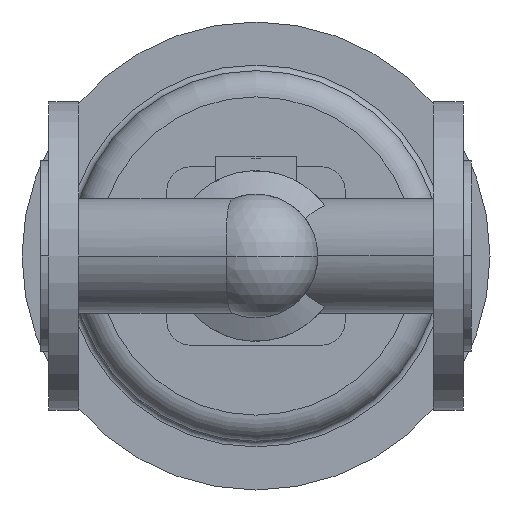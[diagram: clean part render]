
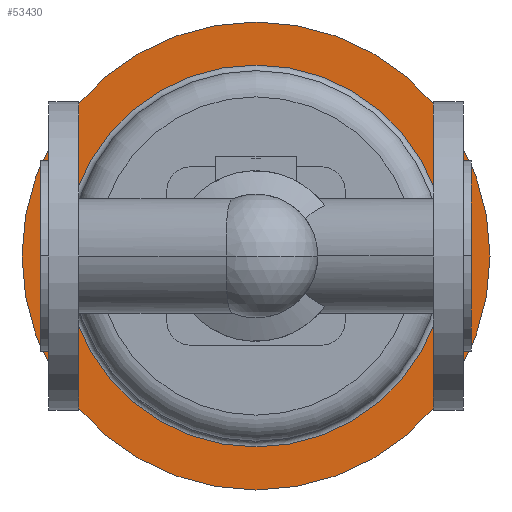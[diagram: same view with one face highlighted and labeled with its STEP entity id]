
A CAD part, front view. The second image highlights one B-rep face of the part: STEP entity #53430.
In plain terms, the highlighted planar face has unit normal (0, -1, 0).
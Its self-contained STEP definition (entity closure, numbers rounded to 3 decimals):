
#52940=CARTESIAN_POINT('',(217.,561.,0.));
#52950=VERTEX_POINT('',#52940);
#53040=CARTESIAN_POINT('',(13.,561.,0.));
#53050=VERTEX_POINT('',#53040);
#53080=CARTESIAN_POINT('',(115.,561.,0.));
#53090=DIRECTION('',(0.,1.,0.));
#53100=DIRECTION('',(1.,0.,0.));
#53110=AXIS2_PLACEMENT_3D('',#53080,#53090,#53100);
#53120=CIRCLE('',#53110,102.);
#53130=EDGE_CURVE('',#53050,#52950,#53120,.T.);
#53180=CARTESIAN_POINT('',(228.5,561.,0.));
#53190=DIRECTION('',(0.,-1.,0.));
#53200=DIRECTION('',(-1.,0.,0.));
#53210=AXIS2_PLACEMENT_3D('',#53180,#53190,#53200);
#53220=PLANE('',#53210);
#53230=CARTESIAN_POINT('',(115.,561.,0.));
#53240=DIRECTION('',(0.,1.,0.));
#53250=DIRECTION('',(1.,0.,0.));
#53260=AXIS2_PLACEMENT_3D('',#53230,#53240,#53250);
#53270=CIRCLE('',#53260,125.);
#53280=CARTESIAN_POINT('',(-10.,561.,0.));
#53290=VERTEX_POINT('',#53280);
#53300=CARTESIAN_POINT('',(240.,561.,0.));
#53310=VERTEX_POINT('',#53300);
#53320=EDGE_CURVE('',#53290,#53310,#53270,.T.);
#53330=ORIENTED_EDGE('',*,*,#53320,.F.);
#53340=EDGE_CURVE('',#53310,#53290,#53270,.T.);
#53350=ORIENTED_EDGE('',*,*,#53340,.F.);
#53360=EDGE_LOOP('',(#53350,#53330));
#53370=FACE_OUTER_BOUND('',#53360,.T.);
#53380=EDGE_CURVE('',#52950,#53050,#53120,.T.);
#53390=ORIENTED_EDGE('',*,*,#53380,.T.);
#53400=ORIENTED_EDGE('',*,*,#53130,.T.);
#53410=EDGE_LOOP('',(#53400,#53390));
#53420=FACE_BOUND('',#53410,.T.);
#53430=ADVANCED_FACE('',(#53370,#53420),#53220,.T.);
